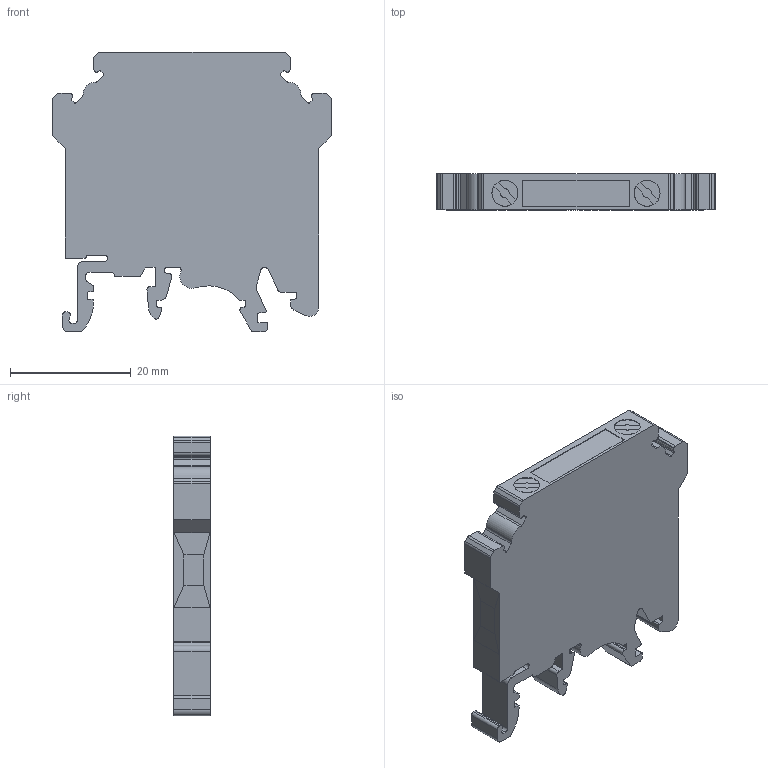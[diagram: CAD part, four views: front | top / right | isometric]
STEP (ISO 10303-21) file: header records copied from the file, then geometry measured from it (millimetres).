
FILE_DESCRIPTION( ( 'Unknown' ), '1' );
FILE_NAME( 'Z:/Product Configurator/3d/SVG/dxf/CKT4U.stp', 'Unknown', ( 'Unknown' ), ( 'Unknown' ), 'PSStep 17.0.49', 'Unknown', ' ' );
FILE_SCHEMA( ( 'AUTOMOTIVE_DESIGN { 1 0 10303 214 1 1 1 1 }' ) );
Length unit declared in the file: millimetre
Products named in the file (1): 1
Bounding box: 46.3 x 6 x 46.4 mm (x, y, z)
Volume: 9756.6 mm3; surface area: 4862.9 mm2
Topology: 1 solids, 1 shells, 217 faces, 616 edges, 404 vertices
Faces by surface type: plane 131, cylinder 86
Full cylindrical faces by diameter (mm): 4.3 x2
Entity records: 8774 total; most frequent: CARTESIAN_POINT 1238, DIRECTION 1224, ORIENTED_EDGE 1224, EDGE_CURVE 612, LINE 432, VECTOR 432, VERTEX_POINT 402, AXIS2_PLACEMENT_3D 396
